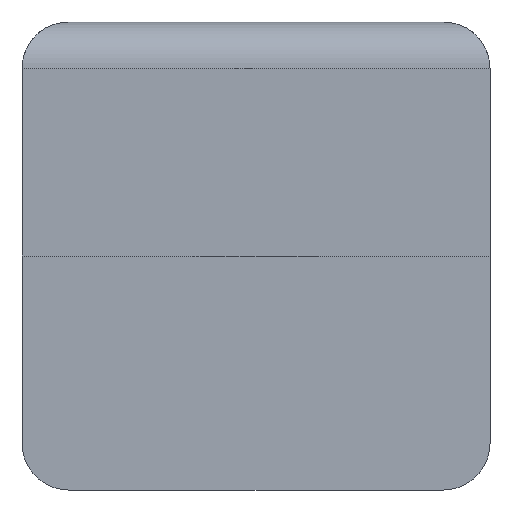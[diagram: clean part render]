
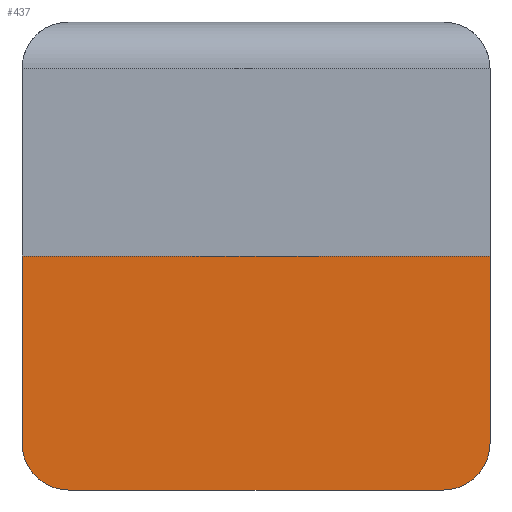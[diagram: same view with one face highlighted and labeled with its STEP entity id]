
A CAD part, front view. The second image highlights one B-rep face of the part: STEP entity #437.
In plain terms, the highlighted planar face has unit normal (0, -1, 0).
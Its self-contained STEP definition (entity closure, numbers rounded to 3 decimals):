
#1=DIRECTION('',(1.,0.,0.));
#2=VECTOR('',#1,20.);
#3=CARTESIAN_POINT('',(-10.,20.,0.));
#4=LINE('',#3,#2);
#37=CARTESIAN_POINT('',(8.,20.,-8.));
#38=DIRECTION('',(0.,-1.,0.));
#39=DIRECTION('',(0.,0.,-1.));
#40=AXIS2_PLACEMENT_3D('',#37,#38,#39);
#42=CARTESIAN_POINT('',(-8.,20.,-8.));
#43=DIRECTION('',(0.,-1.,0.));
#44=DIRECTION('',(-1.,0.,0.));
#45=AXIS2_PLACEMENT_3D('',#42,#43,#44);
#47=DIRECTION('',(0.,0.,-1.));
#48=VECTOR('',#47,8.);
#49=CARTESIAN_POINT('',(-10.,20.,0.));
#50=LINE('',#49,#48);
#105=DIRECTION('',(0.,0.,-1.));
#106=VECTOR('',#105,8.);
#107=CARTESIAN_POINT('',(10.,20.,0.));
#108=LINE('',#107,#106);
#195=DIRECTION('',(1.,0.,0.));
#196=VECTOR('',#195,16.);
#197=CARTESIAN_POINT('',(-8.,20.,-10.));
#198=LINE('',#197,#196);
#315=CARTESIAN_POINT('',(-10.,20.,0.));
#316=CARTESIAN_POINT('',(10.,20.,0.));
#317=VERTEX_POINT('',#315);
#318=VERTEX_POINT('',#316);
#319=CARTESIAN_POINT('',(8.,20.,-10.));
#320=CARTESIAN_POINT('',(10.,20.,-8.));
#321=VERTEX_POINT('',#319);
#322=VERTEX_POINT('',#320);
#323=CARTESIAN_POINT('',(-10.,20.,-8.));
#324=CARTESIAN_POINT('',(-8.,20.,-10.));
#325=VERTEX_POINT('',#323);
#326=VERTEX_POINT('',#324);
#419=CARTESIAN_POINT('',(-10.,20.,10.));
#420=DIRECTION('',(0.,-1.,0.));
#421=DIRECTION('',(1.,0.,0.));
#422=AXIS2_PLACEMENT_3D('',#419,#420,#421);
#423=PLANE('',#422);
#425=ORIENTED_EDGE('',*,*,#424,.F.);
#427=ORIENTED_EDGE('',*,*,#426,.F.);
#429=ORIENTED_EDGE('',*,*,#428,.F.);
#431=ORIENTED_EDGE('',*,*,#430,.F.);
#432=ORIENTED_EDGE('',*,*,#396,.T.);
#434=ORIENTED_EDGE('',*,*,#433,.T.);
#435=EDGE_LOOP('',(#425,#427,#429,#431,#432,#434));
#436=FACE_OUTER_BOUND('',#435,.F.);
#437=ADVANCED_FACE('',(#436),#423,.T.);
#41=CIRCLE('',#40,2.);
#46=CIRCLE('',#45,2.);
#396=EDGE_CURVE('',#317,#318,#4,.T.);
#424=EDGE_CURVE('',#321,#322,#41,.T.);
#426=EDGE_CURVE('',#326,#321,#198,.T.);
#428=EDGE_CURVE('',#325,#326,#46,.T.);
#430=EDGE_CURVE('',#317,#325,#50,.T.);
#433=EDGE_CURVE('',#318,#322,#108,.T.);
